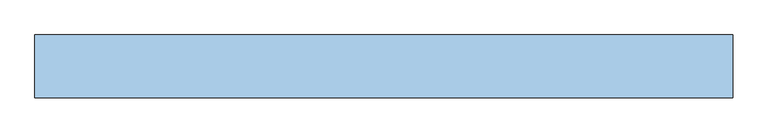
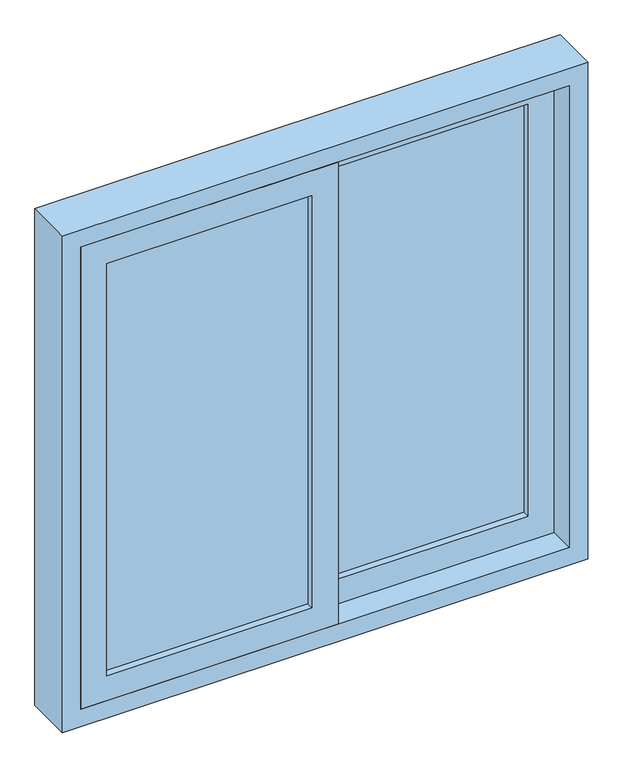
"""IFC4 building model written with IfcOpenShell, lengths in millimetres: window geometry, Janela de correr - 2 Painéis : Janela de correr - 2 Painéis."""

from ifc_helpers import new_model, si_unit, frame, origin, place, context, project, spatial, polyline, outline, extrude, source, transform, mapped, element, save


def window_a0ad160f(model_context):
    return source(origin(), model_context, "Body", "SweptSolid", [
        extrude(outline(polyline([(685.0, -25.0), (685.0, 465.0), (1615.0, 465.0), (1615.0, -25.0), (685.0, -25.0)]), holes=[polyline([(1565.0, 25.0), (1565.0, 415.0), (735.0, 415.0), (735.0, 25.0), (1565.0, 25.0)])]), frame((0.0, -25.0, 0.0), z_axis=(0.0, 1.0, 0.0), x_axis=(0.0, 0.0, 1.0)), (0.0, 0.0, 1.0), 40.0),
        extrude(outline(polyline([(1615.0, 25.0), (1615.0, -465.0), (685.0, -465.0), (685.0, 25.0), (1615.0, 25.0)]), holes=[polyline([(735.0, -25.0), (735.0, -415.0), (1565.0, -415.0), (1565.0, -25.0), (735.0, -25.0)])]), frame((0.0, -75.0, 0.0), z_axis=(0.0, 1.0, 0.0), x_axis=(0.0, 0.0, 1.0)), (0.0, 0.0, 1.0), 40.0),
        extrude(outline(polyline([(1650.0, 500.0), (1650.0, -500.0), (650.0, -500.0), (650.0, 500.0), (1650.0, 500.0)]), holes=[polyline([(685.0, 465.0), (685.0, -465.0), (1615.0, -465.0), (1615.0, 465.0), (685.0, 465.0)])]), frame((0.0, -75.0, 0.0), z_axis=(0.0, 1.0, 0.0), x_axis=(0.0, 0.0, 1.0)), (0.0, 0.0, 1.0), 90.0),
        extrude(outline(polyline([(25.0, 2.0), (415.0, 2.0), (415.0, -12.0), (25.0, -12.0), (25.0, 2.0)])), frame((0.0, 0.0, 735.0), z_axis=(0.0, 0.0, 1.0), x_axis=(1.0, 0.0, 0.0)), (0.0, 0.0, 1.0), 830.0),
        extrude(outline(polyline([(-415.0, -48.0), (-25.0, -48.0), (-25.0, -62.0), (-415.0, -62.0), (-415.0, -48.0)])), frame((0.0, 0.0, 735.0), z_axis=(0.0, 0.0, 1.0), x_axis=(1.0, 0.0, 0.0)), (0.0, 0.0, 1.0), 830.0),
    ])


if __name__ == "__main__":
    model = new_model("IFC4")
    model_context = context("Model", 3, world=origin())
    ifc_project = project(units=[si_unit("LENGTHUNIT", "METRE", prefix="MILLI")], contexts=[model_context])
    site = spatial("IfcSite", under=ifc_project)
    building = spatial("IfcBuilding", under=site)
    placement = place(None, origin())
    window_shape = window_a0ad160f(model_context)
    element("IfcWindow", 1, ObjectType="Janela de correr - 2 Painéis : Janela de correr - 2 Painéis", at=placement, inside=building, context=model_context, shape_type="MappedRepresentation", body=[
        mapped(window_shape, transform((0.0, 0.0, 0.0), x_axis=(1.0, 0.0, 0.0), y_axis=(0.0, 1.0, 0.0), z_axis=(0.0, 0.0, 1.0))),
    ])
    save(model, "model.ifc")
